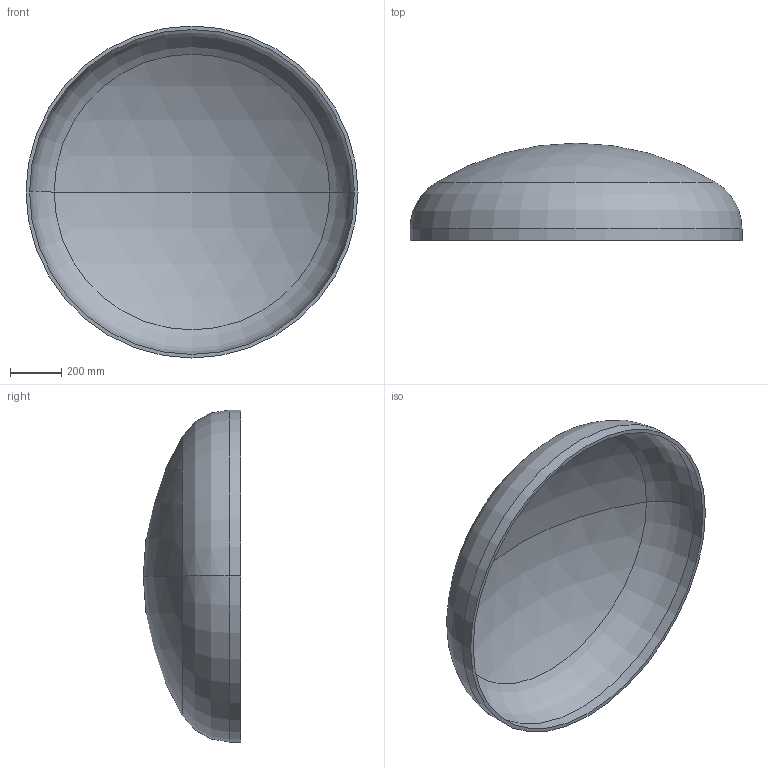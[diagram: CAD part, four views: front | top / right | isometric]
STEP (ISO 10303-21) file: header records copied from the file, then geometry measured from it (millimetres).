
FILE_DESCRIPTION (( 'STEP AP203' ), '1' );
FILE_NAME ('DIN 28013 Korbbogenform_-_Boden DIN 28013 - 1300 x 45 - I - s=14.step', '2016-07-01T09:43:43', ( '' ), ( '' ), 'SwSTEP 2.0', 'SolidWorks 2013', '' );
FILE_SCHEMA (( 'CONFIG_CONTROL_DESIGN' ));
Length unit declared in the file: millimetre
Products named in the file (1): DIN 28013 Korbbogenform_-_Boden DIN 28013 - 1300 x 45 - I - s=14
Bounding box: 1300 x 381.01 x 1300 mm (x, y, z)
Volume: 27912868.9 mm3; surface area: 4044523 mm2
Topology: 1 solids, 1 shells, 13 faces, 24 edges, 14 vertices
Faces by surface type: torus 4, cylinder 4, sphere 4, plane 1
Entity records: 407 total; most frequent: DIRECTION 72, CARTESIAN_POINT 52, ORIENTED_EDGE 48, AXIS2_PLACEMENT_3D 34, EDGE_CURVE 24, CIRCLE 20, EDGE_LOOP 14, VERTEX_POINT 14
